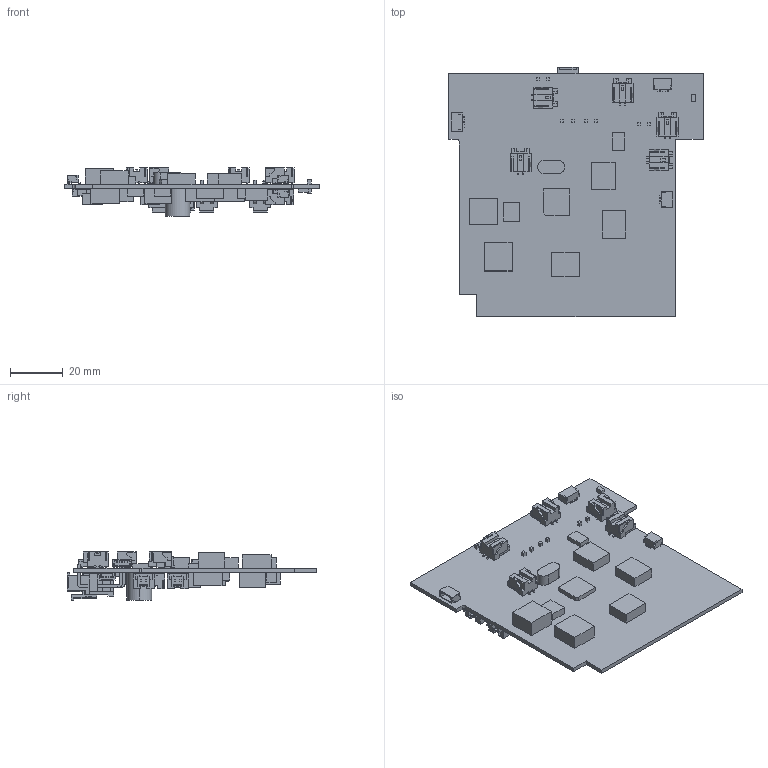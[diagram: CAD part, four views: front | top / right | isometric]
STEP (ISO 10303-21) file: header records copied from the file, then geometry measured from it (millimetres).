
FILE_DESCRIPTION((''),'2;1');
FILE_NAME('C_BOARD_ASM_ASM','2020-03-13T',('g0715'),(''),'PRO/ENGINEER BY PARAMETRIC TECHNOLOGY CORPORATION, 2014090','PRO/ENGINEER BY PARAMETRIC TECHNOLOGY CORPORATION, 2014090','');
FILE_SCHEMA(('CONFIG_CONTROL_DESIGN'));
Length unit declared in the file: millimetre
Products named in the file (22): C_BOARD_NEXUS; BD4834; CMS04; SM02B-PASS; B2PS-VH; SM09B-SRSS-TB; 2SA1451A; EMR422K; SM04B-SRSS-TB; ATK109; 10UH; LT1371; MBRS320; LTC3533; 6_8UH; BD4837; SM05B-SRSS-TB; MM1433; 20MHZ; PIC16F877; VH-2N; C_BOARD_ASM_ASM
Assembly tree (50 placements, depth 2):
  C_BOARD_ASM_ASM
    C_BOARD_NEXUS
    BD4834
    CMS04  x4
    SM02B-PASS  x10
    B2PS-VH  x4
    SM09B-SRSS-TB
    2SA1451A
    EMR422K
    SM04B-SRSS-TB  x4
    ATK109  x5
    10UH  x3
    LT1371  x3
    MBRS320  x3
    LTC3533
    6_8UH
    BD4837
    SM05B-SRSS-TB  x2
    MM1433
    20MHZ
    PIC16F877
    VH-2N
Bounding box: 96.8 x 94.97 x 18.3 mm (x, y, z)
Volume: 25436.4 mm3; surface area: 31680.9 mm2
Topology: 50 solids, 50 shells, 2061 faces, 5531 edges, 3660 vertices
Faces by surface type: plane 2039, cylinder 22
Entity records: 19910 total; most frequent: CARTESIAN_POINT 3494, ORIENTED_EDGE 3350, DIRECTION 3109, EDGE_CURVE 1675, VECTOR 1655, LINE 1655, VERTEX_POINT 1112, AXIS2_PLACEMENT_3D 727
